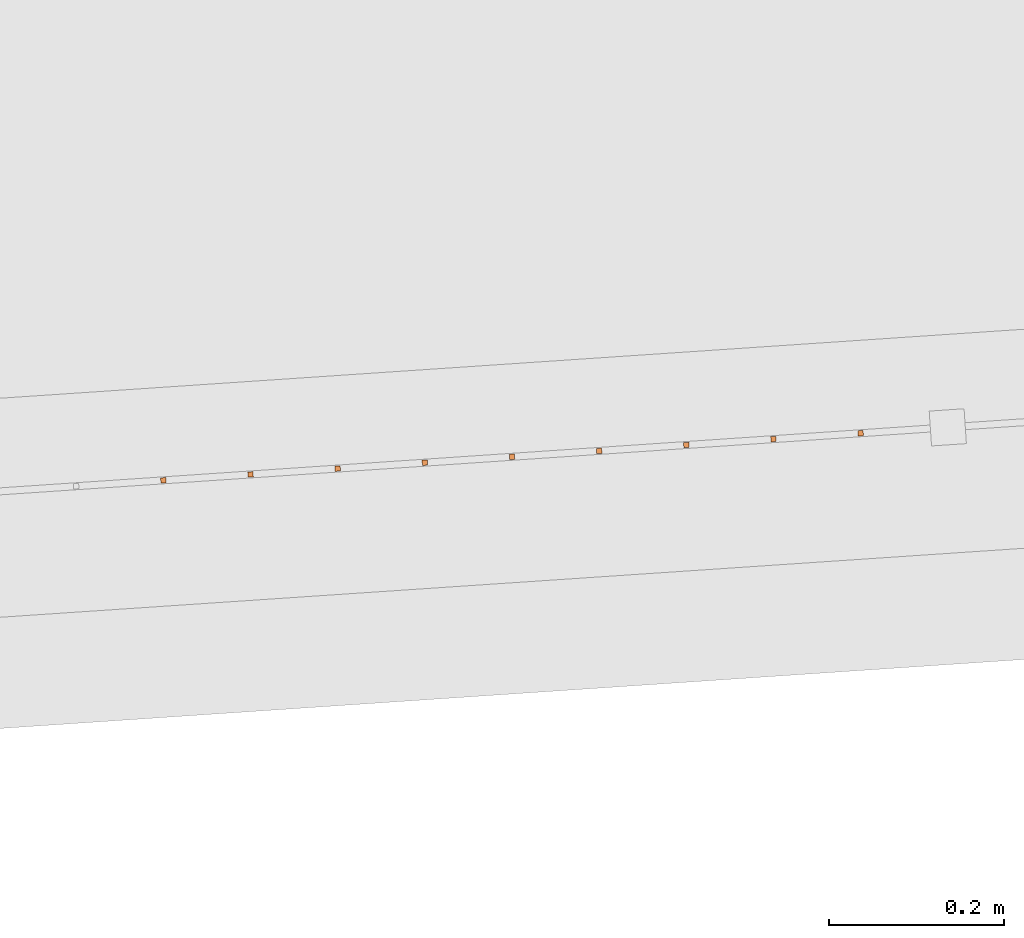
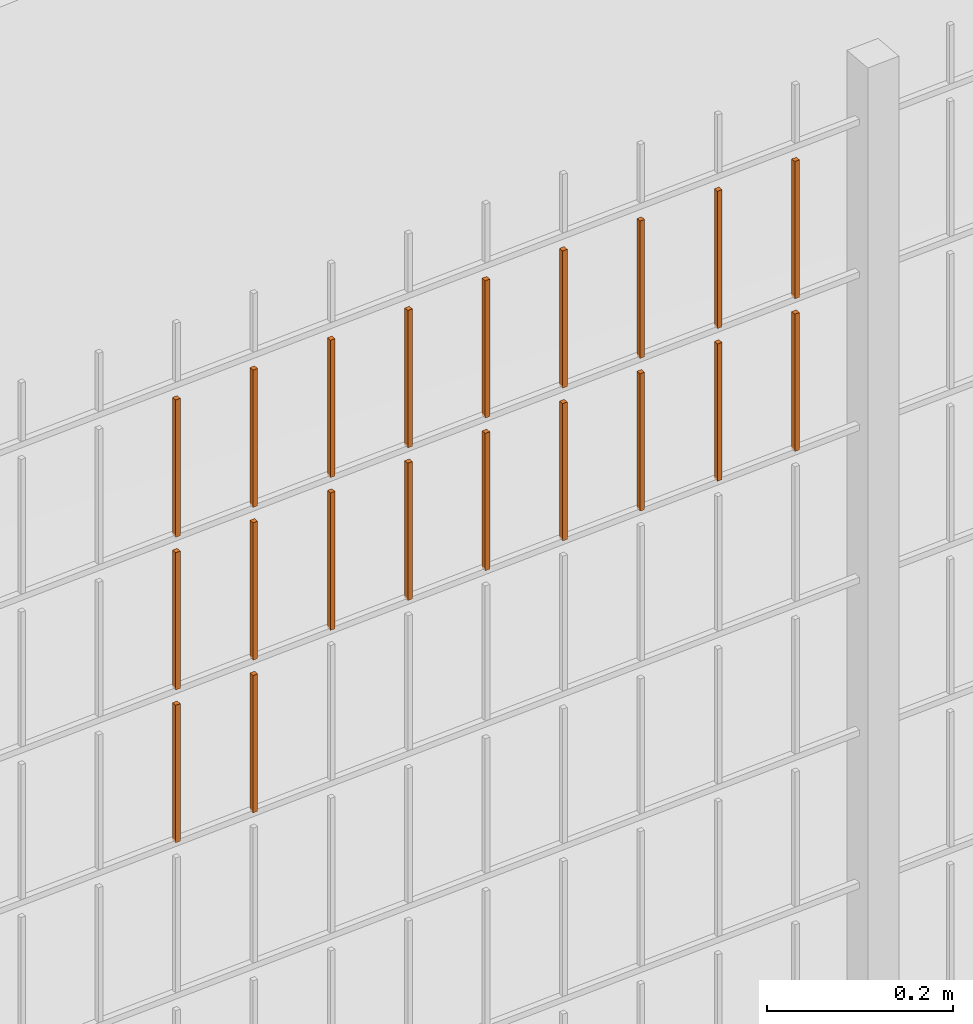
# One storey, part 321 of 1809: 20 proxies, 1 element without a shape of its own.
"""IFC2X3 building model written with IfcOpenShell, lengths in millimetres."""

from ifc_helpers import new_model, entity, si_unit, converted_unit, derived_unit, money_unit, direction, frame, origin_with_axes, place, context, subcontext, project, spatial, faceted_brep, source, transform, mapped, material, type_object, element, aggregate, save


model = new_model("IFC2X3")

# Units and contexts
model_context = context("Model", 3, precision=0.01, world=origin_with_axes(), true_north=direction((0.0, 1.0)))
body_context = subcontext(model_context, "Body", "Model", "MODEL_VIEW")
ifc_project = project(units=[si_unit("LENGTHUNIT", "METRE", prefix="MILLI"), si_unit("AREAUNIT", "SQUARE_METRE"), si_unit("VOLUMEUNIT", "CUBIC_METRE"), converted_unit("PLANEANGLEUNIT", "DEGREE", entity("IfcPlaneAngleMeasure", 0.0174532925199), si_unit("PLANEANGLEUNIT", "RADIAN"), dimensions=[0, 0, 0, 0, 0, 0, 0]), si_unit("SOLIDANGLEUNIT", "STERADIAN"), money_unit("EUR"), converted_unit("TIMEUNIT", "Year", entity("IfcTimeMeasure", 31556926.0), si_unit("TIMEUNIT", "SECOND"), dimensions=[0, 0, 1, 0, 0, 0, 0]), si_unit("MASSUNIT", "GRAM", prefix="KILO"), si_unit("THERMODYNAMICTEMPERATUREUNIT", "DEGREE_CELSIUS"), si_unit("LUMINOUSINTENSITYUNIT", "LUMEN"), si_unit("ENERGYUNIT", "JOULE", prefix="MEGA"), derived_unit("THERMALCONDUCTANCEUNIT", [(si_unit("POWERUNIT", "WATT"), 1), (si_unit("LENGTHUNIT", "METRE"), -1), (si_unit("THERMODYNAMICTEMPERATUREUNIT", "KELVIN"), -1)]), derived_unit("SPECIFICHEATCAPACITYUNIT", [(si_unit("ENERGYUNIT", "JOULE"), 1), (si_unit("MASSUNIT", "GRAM", prefix="KILO"), -1), (si_unit("THERMODYNAMICTEMPERATUREUNIT", "KELVIN"), -1)]), derived_unit("MASSDENSITYUNIT", [(si_unit("MASSUNIT", "GRAM", prefix="KILO"), 1), (si_unit("VOLUMEUNIT", "CUBIC_METRE"), -1)])], contexts=[model_context])

# Site, building, storey
site_placement = place(None, origin_with_axes())
site = spatial("IfcSite", under=ifc_project, at=site_placement, Name="Politse- ja Piirivalveameti ning Päästeameti ühishoone", CompositionType="ELEMENT")
building_placement = place(site_placement, origin_with_axes())
building = spatial("IfcBuilding", under=site, at=building_placement, Name="Politse- ja Piirivalveameti ning Päästeameti ühishoone", CompositionType="ELEMENT")
storey_placement = place(building_placement, origin_with_axes())
storey = spatial("IfcBuildingStorey", under=building, at=storey_placement, Name="Esimene korrus", CompositionType="ELEMENT", Elevation=0.0)

# Proxies
building_element_proxy_type_1 = type_object("IfcBuildingElementProxyType", Name="Railing Type", PredefinedType="NOTDEFINED")
proxy_1_placement = place(storey_placement, frame((89252.001212, -29183.4766571, 203.661247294), z_axis=(0.0, 0.0, 1.0), x_axis=(1.0, 0.0, 0.0)))
proxy_1 = element("IfcBuildingElementProxy", 1, at=proxy_1_placement, inside=storey, type_object=building_element_proxy_type_1, Name="PIIRDEAED")
ifc_material = material(Name="ET-03_Raud")
building_element_proxy_type_2 = type_object("IfcBuildingElementProxyType", Name="IfcBuildingElementProxy", PredefinedType="NOTDEFINED")
shared_shape_1 = source(origin_with_axes(), body_context, "Body", "Brep", [
    faceted_brep([(3.0, 3.0, -0.000752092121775), (-3.0, 3.0, -0.000752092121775), (-3.0, 3.0, 179.99926046), (3.0, 3.0, 179.99926046), (3.0, -3.0, 0.000752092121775), (-3.0, -3.0, 0.000752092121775), (-3.0, -3.0, 180.000764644), (3.0, -3.0, 180.000764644)], [[[0, 1, 2, 3]], [[0, 4, 5, 1]], [[1, 5, 6, 2]], [[3, 2, 6, 7]], [[4, 0, 3, 7]], [[5, 4, 7, 6]]]),
])
proxy_2_placement = place(proxy_1_placement, frame((-38139.7807501, -19873.9730169, 1417.65105522), z_axis=(0.0, 0.0, 1.0), x_axis=(1.0, 0.0, 0.0)))
proxy_2 = element("IfcBuildingElementProxy", 2, at=proxy_2_placement, type_object=building_element_proxy_type_2, material=ifc_material, Name="BALUSTER - 001", context=body_context, shape_type="MappedRepresentation", body=[
    mapped(shared_shape_1, transform((0.0, 0.0, 0.0), x_axis=(-0.0673926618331, 0.997726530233, 0.0), y_axis=(-0.997726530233, -0.0673926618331, 0.0), z_axis=(0.0, 0.0, 1.0))),
])
shared_shape_2 = source(origin_with_axes(), body_context, "Body", "Brep", [
    faceted_brep([(3.0, 3.0, -0.000752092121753), (-3.0, 3.0, -0.000752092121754), (-3.0, 3.0, 179.99926046), (3.0, 3.0, 179.99926046), (3.0, -3.0, 0.000752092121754), (-3.0, -3.0, 0.000752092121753), (-3.0, -3.0, 180.000764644), (3.0, -3.0, 180.000764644)], [[[0, 1, 2, 3]], [[0, 4, 5, 1]], [[1, 5, 6, 2]], [[3, 2, 6, 7]], [[4, 0, 3, 7]], [[5, 4, 7, 6]]]),
])
proxy_3_placement = place(proxy_1_placement, frame((-37541.1448319, -19833.5374198, 1817.80147365), z_axis=(0.0, 0.0, 1.0), x_axis=(1.0, 0.0, 0.0)))
proxy_3 = element("IfcBuildingElementProxy", 3, at=proxy_3_placement, type_object=building_element_proxy_type_2, material=ifc_material, Name="BALUSTER - 001", context=body_context, shape_type="MappedRepresentation", body=[
    mapped(shared_shape_2, transform((0.0, 0.0, 0.0), x_axis=(-0.0673926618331, 0.997726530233, 0.0), y_axis=(-0.997726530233, -0.0673926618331, 0.0), z_axis=(0.0, 0.0, 1.0))),
])
shared_shape_3 = source(origin_with_axes(), body_context, "Body", "Brep", [
    faceted_brep([(3.0, 3.0, -0.000752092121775), (-3.0, 3.0, -0.000752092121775), (-3.0, 3.0, 179.99926046), (3.0, 3.0, 179.99926046), (3.0, -3.0, 0.000752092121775), (-3.0, -3.0, 0.000752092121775), (-3.0, -3.0, 180.000764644), (3.0, -3.0, 180.000764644)], [[[0, 1, 2, 3]], [[0, 4, 5, 1]], [[1, 5, 6, 2]], [[3, 2, 6, 7]], [[4, 0, 3, 7]], [[5, 4, 7, 6]]]),
])
proxy_4_placement = place(proxy_1_placement, frame((-38040.0080971, -19867.2337508, 1817.67612496), z_axis=(0.0, 0.0, 1.0), x_axis=(1.0, 0.0, 0.0)))
proxy_4 = element("IfcBuildingElementProxy", 4, at=proxy_4_placement, type_object=building_element_proxy_type_2, material=ifc_material, Name="BALUSTER - 001", context=body_context, shape_type="MappedRepresentation", body=[
    mapped(shared_shape_3, transform((0.0, 0.0, 0.0), x_axis=(-0.0673926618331, 0.997726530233, 0.0), y_axis=(-0.997726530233, -0.0673926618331, 0.0), z_axis=(0.0, 0.0, 1.0))),
])
shared_shape_4 = source(origin_with_axes(), body_context, "Body", "Brep", [
    faceted_brep([(3.0, 3.0, -0.000752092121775), (-3.0, 3.0, -0.000752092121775), (-3.0, 3.0, 179.99926046), (3.0, 3.0, 179.99926046), (3.0, -3.0, 0.000752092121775), (-3.0, -3.0, 0.000752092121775), (-3.0, -3.0, 180.000764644), (3.0, -3.0, 180.000764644)], [[[0, 1, 2, 3]], [[0, 4, 5, 1]], [[1, 5, 6, 2]], [[3, 2, 6, 7]], [[4, 0, 3, 7]], [[5, 4, 7, 6]]]),
])
proxy_5_placement = place(proxy_1_placement, frame((-38139.7807501, -19873.9730169, 1617.65105522), z_axis=(0.0, 0.0, 1.0), x_axis=(1.0, 0.0, 0.0)))
proxy_5 = element("IfcBuildingElementProxy", 5, at=proxy_5_placement, type_object=building_element_proxy_type_2, material=ifc_material, Name="BALUSTER - 001", context=body_context, shape_type="MappedRepresentation", body=[
    mapped(shared_shape_4, transform((0.0, 0.0, 0.0), x_axis=(-0.0673926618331, 0.997726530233, 0.0), y_axis=(-0.997726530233, -0.0673926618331, 0.0), z_axis=(0.0, 0.0, 1.0))),
])
proxy_6_placement = place(proxy_1_placement, frame((-37441.3721789, -19826.7981537, 1817.82654338), z_axis=(0.0, 0.0, 1.0), x_axis=(1.0, 0.0, 0.0)))
proxy_6 = element("IfcBuildingElementProxy", 6, at=proxy_6_placement, type_object=building_element_proxy_type_2, material=ifc_material, Name="BALUSTER - 001", context=body_context, shape_type="MappedRepresentation", body=[
    mapped(shared_shape_4, transform((0.0, 0.0, 0.0), x_axis=(-0.0673926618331, 0.997726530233, 0.0), y_axis=(-0.997726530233, -0.0673926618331, 0.0), z_axis=(0.0, 0.0, 1.0))),
])
shared_shape_5 = source(origin_with_axes(), body_context, "Body", "Brep", [
    faceted_brep([(3.0, 3.0, -0.000752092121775), (-3.0, 3.0, -0.000752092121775), (-3.0, 3.0, 179.99926046), (3.0, 3.0, 179.99926046), (3.0, -3.0, 0.000752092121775), (-3.0, -3.0, 0.000752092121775), (-3.0, -3.0, 180.000764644), (3.0, -3.0, 180.000764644)], [[[0, 1, 2, 3]], [[0, 4, 5, 1]], [[1, 5, 6, 2]], [[3, 2, 6, 7]], [[4, 0, 3, 7]], [[5, 4, 7, 6]]]),
])
proxy_7_placement = place(proxy_1_placement, frame((-38139.7807501, -19873.9730169, 1817.65105522), z_axis=(0.0, 0.0, 1.0), x_axis=(1.0, 0.0, 0.0)))
proxy_7 = element("IfcBuildingElementProxy", 7, at=proxy_7_placement, type_object=building_element_proxy_type_2, material=ifc_material, Name="BALUSTER - 001", context=body_context, shape_type="MappedRepresentation", body=[
    mapped(shared_shape_5, transform((0.0, 0.0, 0.0), x_axis=(-0.0673926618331, 0.997726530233, 0.0), y_axis=(-0.997726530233, -0.0673926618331, 0.0), z_axis=(0.0, 0.0, 1.0))),
])
shared_shape_6 = source(origin_with_axes(), body_context, "Body", "Brep", [
    faceted_brep([(3.0, 3.0, -0.000752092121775), (-3.0, 3.0, -0.000752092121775), (-3.0, 3.0, 179.99926046), (3.0, 3.0, 179.99926046), (3.0, -3.0, 0.000752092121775), (-3.0, -3.0, 0.000752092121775), (-3.0, -3.0, 180.000764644), (3.0, -3.0, 180.000764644)], [[[0, 1, 2, 3]], [[0, 4, 5, 1]], [[1, 5, 6, 2]], [[3, 2, 6, 7]], [[4, 0, 3, 7]], [[5, 4, 7, 6]]]),
])
proxy_8_placement = place(proxy_1_placement, frame((-37441.3721789, -19826.7981537, 1617.82654338), z_axis=(0.0, 0.0, 1.0), x_axis=(1.0, 0.0, 0.0)))
proxy_8 = element("IfcBuildingElementProxy", 8, at=proxy_8_placement, type_object=building_element_proxy_type_2, material=ifc_material, Name="BALUSTER - 001", context=body_context, shape_type="MappedRepresentation", body=[
    mapped(shared_shape_6, transform((0.0, 0.0, 0.0), x_axis=(-0.0673926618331, 0.997726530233, 0.0), y_axis=(-0.997726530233, -0.0673926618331, 0.0), z_axis=(0.0, 0.0, 1.0))),
])
shared_shape_7 = source(origin_with_axes(), body_context, "Body", "Brep", [
    faceted_brep([(3.0, 3.0, -0.000752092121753), (-3.0, 3.0, -0.000752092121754), (-3.0, 3.0, 179.99926046), (3.0, 3.0, 179.99926046), (3.0, -3.0, 0.000752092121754), (-3.0, -3.0, 0.000752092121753), (-3.0, -3.0, 180.000764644), (3.0, -3.0, 180.000764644)], [[[0, 1, 2, 3]], [[0, 4, 5, 1]], [[1, 5, 6, 2]], [[3, 2, 6, 7]], [[4, 0, 3, 7]], [[5, 4, 7, 6]]]),
])
proxy_9_placement = place(proxy_1_placement, frame((-37541.1448319, -19833.5374198, 1617.80147365), z_axis=(0.0, 0.0, 1.0), x_axis=(1.0, 0.0, 0.0)))
proxy_9 = element("IfcBuildingElementProxy", 9, at=proxy_9_placement, type_object=building_element_proxy_type_2, material=ifc_material, Name="BALUSTER - 001", context=body_context, shape_type="MappedRepresentation", body=[
    mapped(shared_shape_7, transform((0.0, 0.0, 0.0), x_axis=(-0.0673926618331, 0.997726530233, 0.0), y_axis=(-0.997726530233, -0.0673926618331, 0.0), z_axis=(0.0, 0.0, 1.0))),
])
shared_shape_8 = source(origin_with_axes(), body_context, "Body", "Brep", [
    faceted_brep([(3.0, 3.0, -0.000752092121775), (-3.0, 3.0, -0.000752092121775), (-3.0, 3.0, 179.99926046), (3.0, 3.0, 179.99926046), (3.0, -3.0, 0.000752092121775), (-3.0, -3.0, 0.000752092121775), (-3.0, -3.0, 180.000764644), (3.0, -3.0, 180.000764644)], [[[0, 1, 2, 3]], [[0, 4, 5, 1]], [[1, 5, 6, 2]], [[3, 2, 6, 7]], [[4, 0, 3, 7]], [[5, 4, 7, 6]]]),
])
proxy_10_placement = place(proxy_1_placement, frame((-38040.0080971, -19867.2337508, 1417.67612496), z_axis=(0.0, 0.0, 1.0), x_axis=(1.0, 0.0, 0.0)))
proxy_10 = element("IfcBuildingElementProxy", 10, at=proxy_10_placement, type_object=building_element_proxy_type_2, material=ifc_material, Name="BALUSTER - 001", context=body_context, shape_type="MappedRepresentation", body=[
    mapped(shared_shape_8, transform((0.0, 0.0, 0.0), x_axis=(-0.0673926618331, 0.997726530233, 0.0), y_axis=(-0.997726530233, -0.0673926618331, 0.0), z_axis=(0.0, 0.0, 1.0))),
])
proxy_11_placement = place(proxy_1_placement, frame((-38040.0080971, -19867.2337508, 1617.67612496), z_axis=(0.0, 0.0, 1.0), x_axis=(1.0, 0.0, 0.0)))
proxy_11 = element("IfcBuildingElementProxy", 11, at=proxy_11_placement, type_object=building_element_proxy_type_2, material=ifc_material, Name="BALUSTER - 001", context=body_context, shape_type="MappedRepresentation", body=[
    mapped(shared_shape_8, transform((0.0, 0.0, 0.0), x_axis=(-0.0673926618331, 0.997726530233, 0.0), y_axis=(-0.997726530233, -0.0673926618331, 0.0), z_axis=(0.0, 0.0, 1.0))),
])
shared_shape_9 = source(origin_with_axes(), body_context, "Body", "Brep", [
    faceted_brep([(3.0, 3.0, -0.000752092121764), (-3.0, 3.0, -0.000752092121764), (-3.0, 3.0, 179.99926046), (3.0, 3.0, 179.99926046), (3.0, -3.0, 0.000752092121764), (-3.0, -3.0, 0.000752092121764), (-3.0, -3.0, 180.000764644), (3.0, -3.0, 180.000764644)], [[[0, 1, 2, 3]], [[0, 4, 5, 1]], [[1, 5, 6, 2]], [[3, 2, 6, 7]], [[4, 0, 3, 7]], [[5, 4, 7, 6]]]),
])
proxy_12_placement = place(proxy_1_placement, frame((-37341.5995259, -19820.0588875, 1817.85161312), z_axis=(0.0, 0.0, 1.0), x_axis=(1.0, 0.0, 0.0)))
proxy_12 = element("IfcBuildingElementProxy", 12, at=proxy_12_placement, type_object=building_element_proxy_type_2, material=ifc_material, Name="BALUSTER - 001", context=body_context, shape_type="MappedRepresentation", body=[
    mapped(shared_shape_9, transform((0.0, 0.0, 0.0), x_axis=(-0.0673926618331, 0.997726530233, 0.0), y_axis=(-0.997726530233, -0.0673926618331, 0.0), z_axis=(0.0, 0.0, 1.0))),
])
shared_shape_10 = source(origin_with_axes(), body_context, "Body", "Brep", [
    faceted_brep([(3.0, 3.0, -0.000752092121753), (-3.0, 3.0, -0.000752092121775), (-3.0, 3.0, 179.99926046), (3.0, 3.0, 179.99926046), (3.0, -3.0, 0.000752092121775), (-3.0, -3.0, 0.000752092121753), (-3.0, -3.0, 180.000764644), (3.0, -3.0, 180.000764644)], [[[0, 1, 2, 3]], [[0, 4, 5, 1]], [[1, 5, 6, 2]], [[3, 2, 6, 7]], [[4, 0, 3, 7]], [[5, 4, 7, 6]]]),
])
proxy_13_placement = place(proxy_1_placement, frame((-37740.690138, -19847.0159522, 1817.75133417), z_axis=(0.0, 0.0, 1.0), x_axis=(1.0, 0.0, 0.0)))
proxy_13 = element("IfcBuildingElementProxy", 13, at=proxy_13_placement, type_object=building_element_proxy_type_2, material=ifc_material, Name="BALUSTER - 001", context=body_context, shape_type="MappedRepresentation", body=[
    mapped(shared_shape_10, transform((0.0, 0.0, 0.0), x_axis=(-0.0673926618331, 0.997726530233, 0.0), y_axis=(-0.997726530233, -0.0673926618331, 0.0), z_axis=(0.0, 0.0, 1.0))),
])
shared_shape_11 = source(origin_with_axes(), body_context, "Body", "Brep", [
    faceted_brep([(3.0, 3.0, -0.000752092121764), (-3.0, 3.0, -0.000752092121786), (-3.0, 3.0, 179.99926046), (3.0, 3.0, 179.99926046), (3.0, -3.0, 0.000752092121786), (-3.0, -3.0, 0.000752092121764), (-3.0, -3.0, 180.000764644), (3.0, -3.0, 180.000764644)], [[[0, 1, 2, 3]], [[0, 4, 5, 1]], [[1, 5, 6, 2]], [[3, 2, 6, 7]], [[4, 0, 3, 7]], [[5, 4, 7, 6]]]),
])
proxy_14_placement = place(proxy_1_placement, frame((-37840.462791, -19853.7552184, 1617.72626443), z_axis=(0.0, 0.0, 1.0), x_axis=(1.0, 0.0, 0.0)))
proxy_14 = element("IfcBuildingElementProxy", 14, at=proxy_14_placement, type_object=building_element_proxy_type_2, material=ifc_material, Name="BALUSTER - 001", context=body_context, shape_type="MappedRepresentation", body=[
    mapped(shared_shape_11, transform((0.0, 0.0, 0.0), x_axis=(-0.0673926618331, 0.997726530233, 0.0), y_axis=(-0.997726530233, -0.0673926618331, 0.0), z_axis=(0.0, 0.0, 1.0))),
])
shared_shape_12 = source(origin_with_axes(), body_context, "Body", "Brep", [
    faceted_brep([(3.0, 3.0, -0.000752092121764), (-3.0, 3.0, -0.000752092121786), (-3.0, 3.0, 179.99926046), (3.0, 3.0, 179.99926046), (3.0, -3.0, 0.000752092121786), (-3.0, -3.0, 0.000752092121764), (-3.0, -3.0, 180.000764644), (3.0, -3.0, 180.000764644)], [[[0, 1, 2, 3]], [[0, 4, 5, 1]], [[1, 5, 6, 2]], [[3, 2, 6, 7]], [[4, 0, 3, 7]], [[5, 4, 7, 6]]]),
])
proxy_15_placement = place(proxy_1_placement, frame((-37840.462791, -19853.7552184, 1817.72626443), z_axis=(0.0, 0.0, 1.0), x_axis=(1.0, 0.0, 0.0)))
proxy_15 = element("IfcBuildingElementProxy", 15, at=proxy_15_placement, type_object=building_element_proxy_type_2, material=ifc_material, Name="BALUSTER - 001", context=body_context, shape_type="MappedRepresentation", body=[
    mapped(shared_shape_12, transform((0.0, 0.0, 0.0), x_axis=(-0.0673926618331, 0.997726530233, 0.0), y_axis=(-0.997726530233, -0.0673926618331, 0.0), z_axis=(0.0, 0.0, 1.0))),
])
proxy_16_placement = place(proxy_1_placement, frame((-37940.235444, -19860.4944846, 1817.7011947), z_axis=(0.0, 0.0, 1.0), x_axis=(1.0, 0.0, 0.0)))
proxy_16 = element("IfcBuildingElementProxy", 16, at=proxy_16_placement, type_object=building_element_proxy_type_2, material=ifc_material, Name="BALUSTER - 001", context=body_context, shape_type="MappedRepresentation", body=[
    mapped(shared_shape_12, transform((0.0, 0.0, 0.0), x_axis=(-0.0673926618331, 0.997726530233, 0.0), y_axis=(-0.997726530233, -0.0673926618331, 0.0), z_axis=(0.0, 0.0, 1.0))),
])
shared_shape_13 = source(origin_with_axes(), body_context, "Body", "Brep", [
    faceted_brep([(3.0, 3.0, -0.000752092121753), (-3.0, 3.0, -0.000752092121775), (-3.0, 3.0, 179.99926046), (3.0, 3.0, 179.99926046), (3.0, -3.0, 0.000752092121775), (-3.0, -3.0, 0.000752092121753), (-3.0, -3.0, 180.000764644), (3.0, -3.0, 180.000764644)], [[[0, 1, 2, 3]], [[0, 4, 5, 1]], [[1, 5, 6, 2]], [[3, 2, 6, 7]], [[4, 0, 3, 7]], [[5, 4, 7, 6]]]),
])
proxy_17_placement = place(proxy_1_placement, frame((-37640.917485, -19840.276686, 1817.77640391), z_axis=(0.0, 0.0, 1.0), x_axis=(1.0, 0.0, 0.0)))
proxy_17 = element("IfcBuildingElementProxy", 17, at=proxy_17_placement, type_object=building_element_proxy_type_2, material=ifc_material, Name="BALUSTER - 001", context=body_context, shape_type="MappedRepresentation", body=[
    mapped(shared_shape_13, transform((0.0, 0.0, 0.0), x_axis=(-0.0673926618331, 0.997726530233, 0.0), y_axis=(-0.997726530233, -0.0673926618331, 0.0), z_axis=(0.0, 0.0, 1.0))),
])
shared_shape_14 = source(origin_with_axes(), body_context, "Body", "Brep", [
    faceted_brep([(3.0, 3.0, -0.000752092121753), (-3.0, 3.0, -0.000752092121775), (-3.0, 3.0, 179.99926046), (3.0, 3.0, 179.99926046), (3.0, -3.0, 0.000752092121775), (-3.0, -3.0, 0.000752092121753), (-3.0, -3.0, 180.000764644), (3.0, -3.0, 180.000764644)], [[[0, 1, 2, 3]], [[0, 4, 5, 1]], [[1, 5, 6, 2]], [[3, 2, 6, 7]], [[4, 0, 3, 7]], [[5, 4, 7, 6]]]),
])
proxy_18_placement = place(proxy_1_placement, frame((-37740.690138, -19847.0159522, 1617.75133417), z_axis=(0.0, 0.0, 1.0), x_axis=(1.0, 0.0, 0.0)))
proxy_18 = element("IfcBuildingElementProxy", 18, at=proxy_18_placement, type_object=building_element_proxy_type_2, material=ifc_material, Name="BALUSTER - 001", context=body_context, shape_type="MappedRepresentation", body=[
    mapped(shared_shape_14, transform((0.0, 0.0, 0.0), x_axis=(-0.0673926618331, 0.997726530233, 0.0), y_axis=(-0.997726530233, -0.0673926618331, 0.0), z_axis=(0.0, 0.0, 1.0))),
])
shared_shape_15 = source(origin_with_axes(), body_context, "Body", "Brep", [
    faceted_brep([(3.0, 3.0, -0.000752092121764), (-3.0, 3.0, -0.000752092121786), (-3.0, 3.0, 179.99926046), (3.0, 3.0, 179.99926046), (3.0, -3.0, 0.000752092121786), (-3.0, -3.0, 0.000752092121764), (-3.0, -3.0, 180.000764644), (3.0, -3.0, 180.000764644)], [[[0, 1, 2, 3]], [[0, 4, 5, 1]], [[1, 5, 6, 2]], [[3, 2, 6, 7]], [[4, 0, 3, 7]], [[5, 4, 7, 6]]]),
])
proxy_19_placement = place(proxy_1_placement, frame((-37940.235444, -19860.4944846, 1617.7011947), z_axis=(0.0, 0.0, 1.0), x_axis=(1.0, 0.0, 0.0)))
proxy_19 = element("IfcBuildingElementProxy", 19, at=proxy_19_placement, type_object=building_element_proxy_type_2, material=ifc_material, Name="BALUSTER - 001", context=body_context, shape_type="MappedRepresentation", body=[
    mapped(shared_shape_15, transform((0.0, 0.0, 0.0), x_axis=(-0.0673926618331, 0.997726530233, 0.0), y_axis=(-0.997726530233, -0.0673926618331, 0.0), z_axis=(0.0, 0.0, 1.0))),
])
shared_shape_16 = source(origin_with_axes(), body_context, "Body", "Brep", [
    faceted_brep([(3.0, 3.0, -0.000752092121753), (-3.0, 3.0, -0.000752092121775), (-3.0, 3.0, 179.99926046), (3.0, 3.0, 179.99926046), (3.0, -3.0, 0.000752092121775), (-3.0, -3.0, 0.000752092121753), (-3.0, -3.0, 180.000764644), (3.0, -3.0, 180.000764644)], [[[0, 1, 2, 3]], [[0, 4, 5, 1]], [[1, 5, 6, 2]], [[3, 2, 6, 7]], [[4, 0, 3, 7]], [[5, 4, 7, 6]]]),
])
proxy_20_placement = place(proxy_1_placement, frame((-37640.917485, -19840.276686, 1617.77640391), z_axis=(0.0, 0.0, 1.0), x_axis=(1.0, 0.0, 0.0)))
proxy_20 = element("IfcBuildingElementProxy", 20, at=proxy_20_placement, type_object=building_element_proxy_type_2, material=ifc_material, Name="BALUSTER - 001", context=body_context, shape_type="MappedRepresentation", body=[
    mapped(shared_shape_16, transform((0.0, 0.0, 0.0), x_axis=(-0.0673926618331, 0.997726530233, 0.0), y_axis=(-0.997726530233, -0.0673926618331, 0.0), z_axis=(0.0, 0.0, 1.0))),
])
shared_shape_17 = source(origin_with_axes(), body_context, "Body", "Brep", [
    faceted_brep([(3.0, 3.0, -0.000752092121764), (-3.0, 3.0, -0.000752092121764), (-3.0, 3.0, 179.99926046), (3.0, 3.0, 179.99926046), (3.0, -3.0, 0.000752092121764), (-3.0, -3.0, 0.000752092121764), (-3.0, -3.0, 180.000764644), (3.0, -3.0, 180.000764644)], [[[0, 1, 2, 3]], [[0, 4, 5, 1]], [[1, 5, 6, 2]], [[3, 2, 6, 7]], [[4, 0, 3, 7]], [[5, 4, 7, 6]]]),
])
proxy_21_placement = place(proxy_1_placement, frame((-37341.5995259, -19820.0588875, 1617.85161312), z_axis=(0.0, 0.0, 1.0), x_axis=(1.0, 0.0, 0.0)))
proxy_21 = element("IfcBuildingElementProxy", 21, at=proxy_21_placement, type_object=building_element_proxy_type_2, material=ifc_material, Name="BALUSTER - 001", context=body_context, shape_type="MappedRepresentation", body=[
    mapped(shared_shape_17, transform((0.0, 0.0, 0.0), x_axis=(-0.0673926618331, 0.997726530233, 0.0), y_axis=(-0.997726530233, -0.0673926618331, 0.0), z_axis=(0.0, 0.0, 1.0))),
])
aggregate(proxy_1, [proxy_10, proxy_2, proxy_21, proxy_8, proxy_9, proxy_20, proxy_18, proxy_14, proxy_19, proxy_11, proxy_5, proxy_12, proxy_6, proxy_3, proxy_17, proxy_13, proxy_15, proxy_16, proxy_4, proxy_7])

save(model, "model.ifc")
